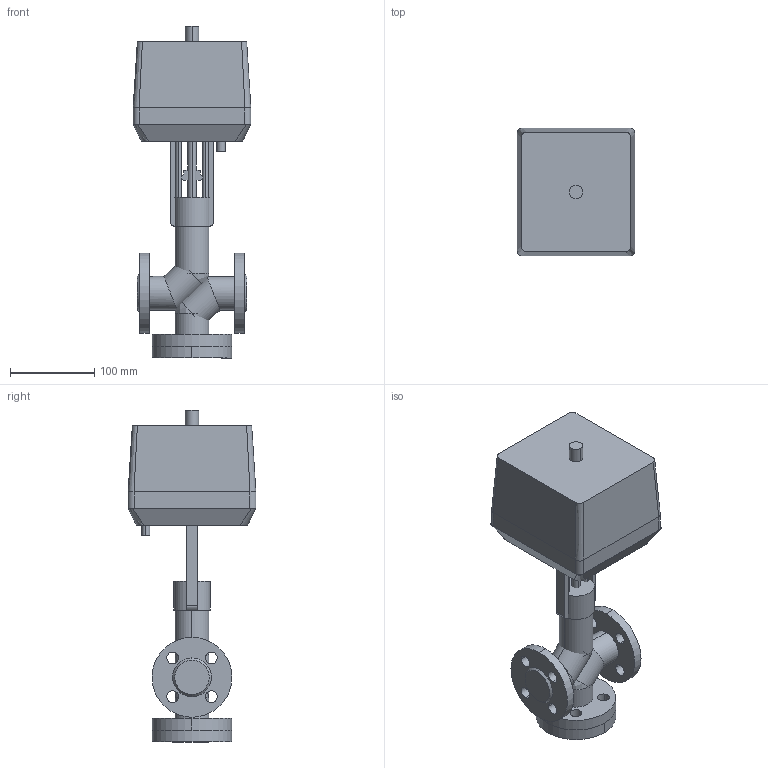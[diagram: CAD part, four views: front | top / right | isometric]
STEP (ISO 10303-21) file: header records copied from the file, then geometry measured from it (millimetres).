
FILE_DESCRIPTION(/* description */ (''),/* implementation_level */ '2;1');
FILE_NAME(/* name */ 'ТРК DN15 PN 1.6 МПа VTM-i 1000H',/* time_stamp */ '2026-07-14T23:21:44+03:00',/* author */ (''),/* organization */ (''),/* preprocessor_version */ 'ST-DEVELOPER v20',/* originating_system */ '',/* authorisation */ '');
FILE_SCHEMA (('AP242_MANAGED_MODEL_BASED_3D_ENGINEERING_MIM_LF { 1 0 10303 442 1 1 4 }'));
Length unit declared in the file: millimetre
Products named in the file (14): TopLevelAssembly; Выдавливание; Модификатор; Модификатор_1; Выдавливание_
1; Выдавливание_
2; Вращение; Выдавливание_
3; Выдавливание_
4; 1600; Переход; Объемная геометрия 
присоединена; Полый Выдавливание; Объемная геометрия 
присоединена_1
Assembly tree (13 placements, depth 2):
  TopLevelAssembly
    Выдавливание
    Модификатор
    Модификатор_1
    Выдавливание_
1
    Выдавливание_
2
    Вращение
    Выдавливание_
3
    Выдавливание_
4
    1600
    Переход
    Объемная геометрия 
присоединена
    Полый Выдавливание
    Объемная геометрия 
присоединена_1
Bounding box: 140 x 152 x 395 mm (x, y, z)
Volume: 3112503.8 mm3; surface area: 340616.8 mm2
Topology: 21 solids, 21 shells, 166 faces, 372 edges, 244 vertices
Faces by surface type: plane 78, cylinder 72, bspline 12, cone 4
Entity records: 5367 total; most frequent: CARTESIAN_POINT 1081, DIRECTION 906, ORIENTED_EDGE 728, EDGE_CURVE 364, AXIS2_PLACEMENT_3D 361, VERTEX_POINT 244, EDGE_LOOP 200, LINE 184
